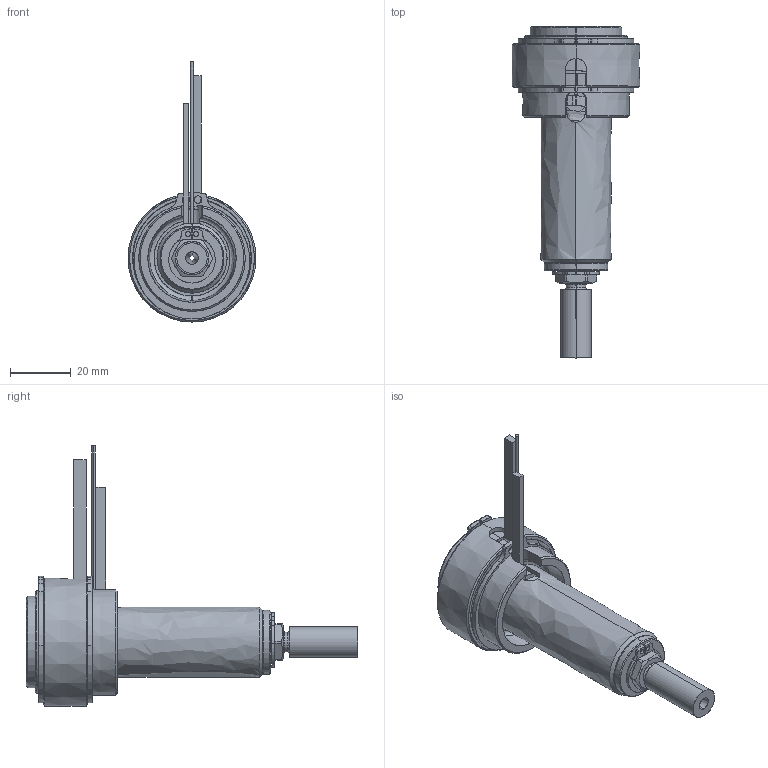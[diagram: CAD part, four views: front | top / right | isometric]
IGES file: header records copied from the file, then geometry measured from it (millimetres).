
Start section: SolidWorks IGES file using analytic representation for surfaces
Global section: file name: C:\Users\luca.EMPAD\Desktop\TEM\UGBE3501-M-A-P-3 [Ød-1.5 P-20 ØC-7.0].IGS; native system: SolidWorks 2012; preprocessor: SolidWorks 2012; author: luca; date: 120330.140317; units: millimetre
Bounding box: 42 x 109 x 85.4 mm (x, y, z)
Surface area: 27677.2 mm2 (no closed solid volume)
Topology: 0 solids, 0 shells, 188 faces, 3274 edges, 3274 vertices
Faces by surface type: revolution 121, bspline 67
